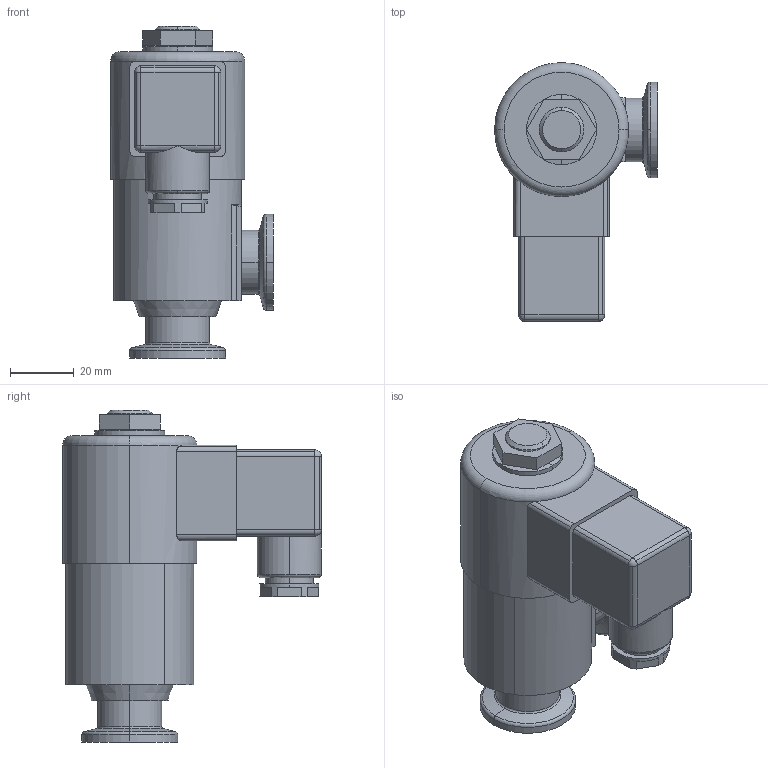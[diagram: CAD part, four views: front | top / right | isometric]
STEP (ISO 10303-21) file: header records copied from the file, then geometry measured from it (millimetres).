
FILE_DESCRIPTION(/* description */ (''),/* implementation_level */ '2;1');
FILE_NAME(/* name */ '1105896021_203.stp',/* time_stamp */ '2013-07-15T15:07:12+02:00',/* author */ (''),/* organization */ (''),/* preprocessor_version */ 'ST-DEVELOPER v11',/* originating_system */ 'SIEMENS PLM Software NX 7.5',/* authorisation */ '');
FILE_SCHEMA (('AP203_CONFIGURATION_CONTROLLED_3D_DESIGN_OF_MECHANICAL_PARTS_AND_ASSEMBLIES_MIM_LF'));
Length unit declared in the file: millimetre
Products named in the file (1): 588445
Bounding box: 51 x 81 x 104 mm (x, y, z)
Volume: 149465.2 mm3; surface area: 24892.1 mm2
Topology: 1 solids, 2 shells, 135 faces, 328 edges, 205 vertices
Faces by surface type: cylinder 58, plane 49, cone 12, torus 12, sphere 4
Entity records: 4110 total; most frequent: CARTESIAN_POINT 763, DIRECTION 742, ORIENTED_EDGE 648, EDGE_CURVE 324, AXIS2_PLACEMENT_3D 300, VERTEX_POINT 205, CIRCLE 164, EDGE_LOOP 147
